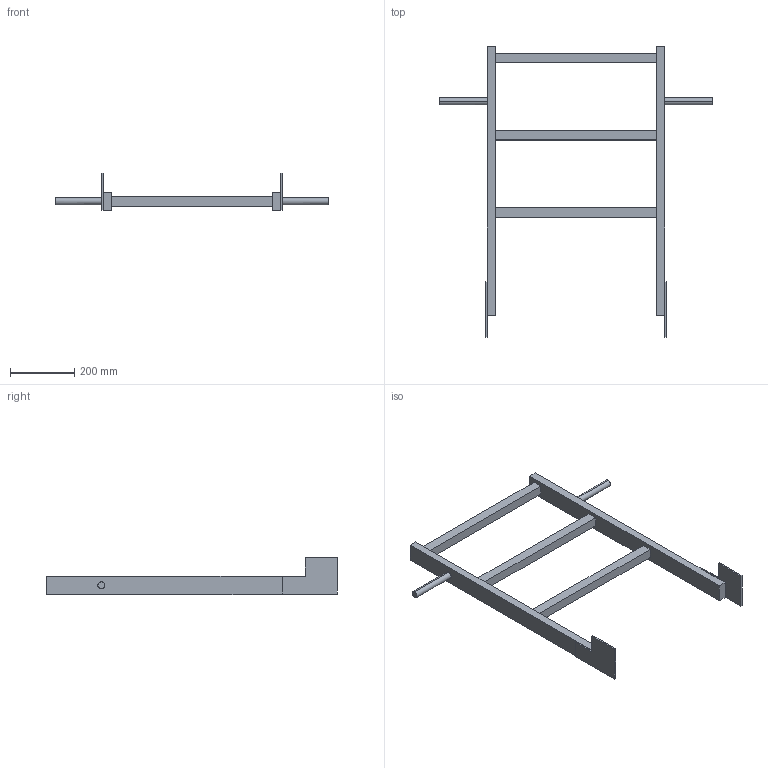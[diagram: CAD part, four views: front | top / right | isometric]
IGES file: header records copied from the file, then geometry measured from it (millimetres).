
Start section:  PTC IGES file: 52331073.igs
Global section: file name: 52331073.igs; native system: Creo Parametric by PTC Inc.; preprocessor: 2022162; author: wep; organization: Unknown; date: 20241218.082902; units: millimetre
Bounding box: 850 x 903 x 115 mm (x, y, z)
Surface area: 518154.8 mm2 (no closed solid volume)
Topology: 0 solids, 0 shells, 46 faces, 232 edges, 232 vertices
Faces by surface type: bspline 42, revolution 4
